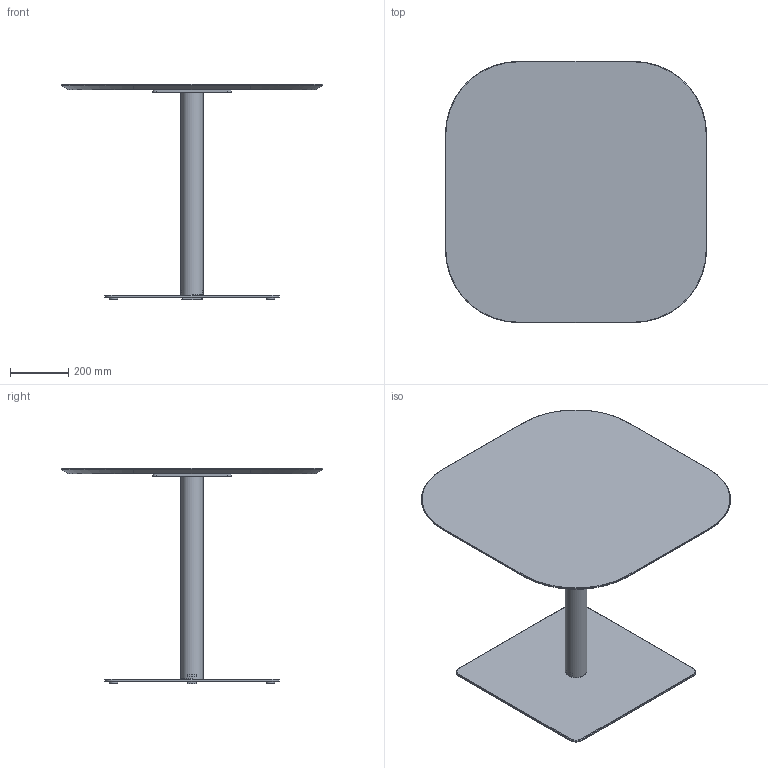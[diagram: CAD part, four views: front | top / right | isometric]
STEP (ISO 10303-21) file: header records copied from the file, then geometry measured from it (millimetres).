
FILE_DESCRIPTION( ('This file contains a STEP AP42 implementation' ,'as created by ZW3D STEP Interface translator.') ,'2;1' );
FILE_NAME( 'Henri - B_Carré - F2 - M5 - 900 x 900 x 750.stp' ,'24 912.17 0 3', (''), ('ZWCAD Software Co.'), 'Version 1.0', 'ZW3D to STEP translator', '' );
FILE_SCHEMA(('AUTOMOTIVE_DESIGN { 1 0 10303 214 1 1 1 1 }'));
Length unit declared in the file: millimetre
Products named in the file (14): 0; PIED BISTROT PARAMETRIQUE_; COLONNE ACIER Ø76 V.02_; TUB-D076-02_; PLA-R76B-01_; CROIX ACIER 370 V.02_; CRX-X370-02_; SOCLE ACIER L 600x600 V.02_; SCL-R600-02_; PLA-R30A-01_; PLA-R30A-01; WUERTH 0276063020 Euro-screw 6.3x2 Verzinkt_; PLATEAU BISTROT PARAMETRIQUE_; insert_m6_13_
Assembly tree (22 placements, depth 3):
  0
  PIED BISTROT PARAMETRIQUE_
    COLONNE ACIER Ø76 V.02_
      TUB-D076-02_
      PLA-R76B-01_  x2
    CROIX ACIER 370 V.02_
      CRX-X370-02_
    SOCLE ACIER L 600x600 V.02_
      SCL-R600-02_
      PLA-R30A-01_
      PLA-R30A-01  x3
    WUERTH 0276063020 Euro-screw 6.3x2 Verzinkt_
    PLATEAU BISTROT PARAMETRIQUE_
      insert_m6_13_  x8
Bounding box: 900 x 900 x 744 mm (x, y, z)
Volume: 18327408.6 mm3; surface area: 2794584.2 mm2
Topology: 19 solids, 19 shells, 537 faces, 1310 edges, 822 vertices
Faces by surface type: plane 262, bspline 121, cylinder 98, cone 55, torus 1
Full cylindrical faces by diameter (mm): 4.88 x1, 6 x8, 6.3 x1, 8 x45, 12 x2, 14 x2, 30 x4, 72 x1, 76 x1
Entity records: 12310 total; most frequent: CARTESIAN_POINT 3396, ORIENTED_EDGE 1624, DIRECTION 1519, EDGE_CURVE 812, VERTEX_POINT 518, VECTOR 513, LINE 513, AXIS2_PLACEMENT_3D 503
